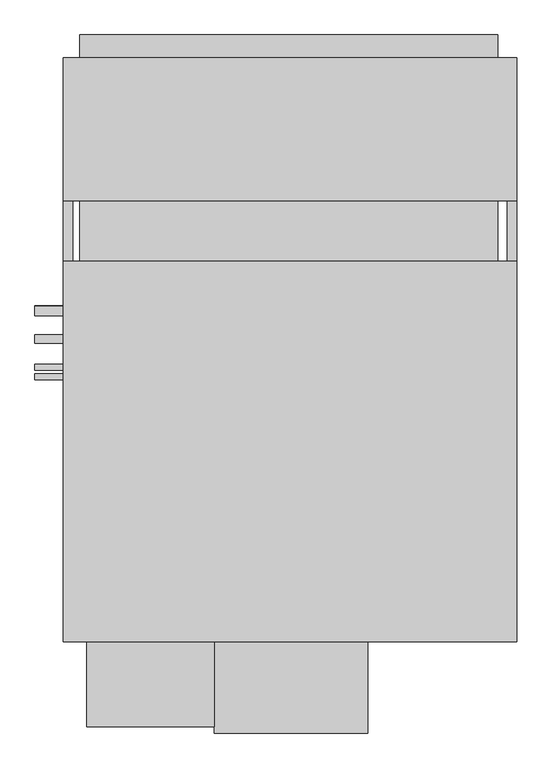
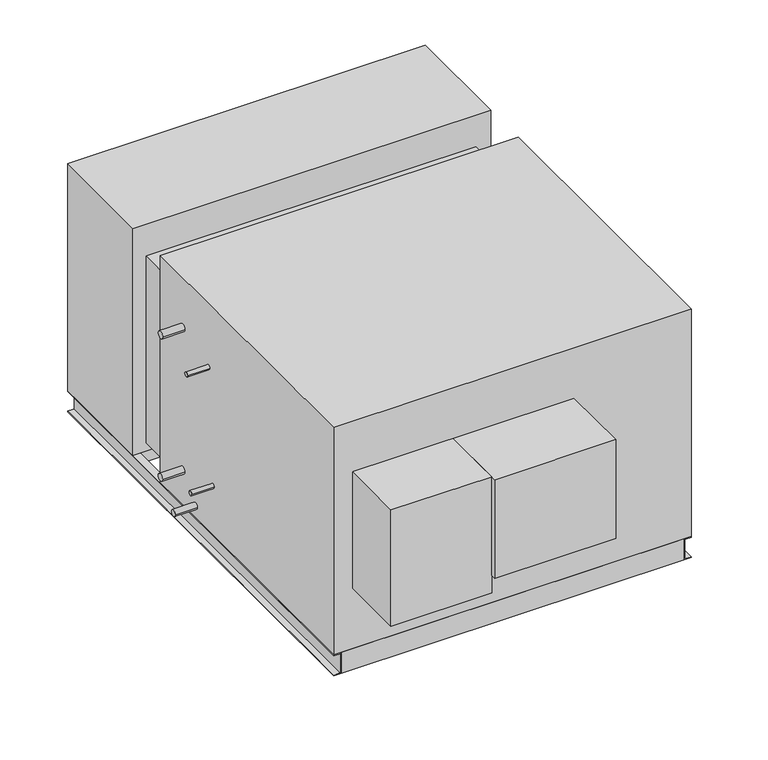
"""IFC4 building model written with IfcOpenShell, lengths in millimetres: proxy geometry, Horizontal_Direct_Drive_Blower_Coil_Unit_-_42DHA_-_CARRIER_-_4-Pipe_NFilterR_W-MixingBox_LH_2022 : Size 30 - 460v/60Hz/3Ph - 6/2 Coil."""

from ifc_helpers import new_model, si_unit, point, frame, frame_2d, origin, place, context, project, spatial, polyline, circle_curve, trimmed, segment, composite_curve, outline, extrude, source, transform, mapped, element, save


def mechanical_equipment_3ddea443(model_context):
    return source(origin(), model_context, "Body", "SweptSolid", [
        extrude(outline(polyline([(101.6, 937.895), (101.6, 683.895), (-1022.35, 683.895), (-1022.35, 937.895), (101.6, 937.895)])), frame((0.0, 0.0, -880.11), z_axis=(0.0, 0.0, 1.0), x_axis=(1.0, 0.0, 0.0)), (0.0, 0.0, 1.0), 60.96),
        extrude(outline(polyline([(-1022.35, 1100.455), (101.6, 1100.455), (101.6, 1039.495), (-1022.35, 1039.495), (-1022.35, 1100.455)])), frame((0.0, 0.0, -330.2), z_axis=(0.0, 0.0, 1.0), x_axis=(1.0, 0.0, 0.0)), (0.0, 0.0, 1.0), 254.0),
        extrude(outline(polyline([(152.4, 1039.495), (152.4, 654.05), (-1066.8, 654.05), (-1066.8, 1039.495), (152.4, 1039.495)])), frame((0.0, 0.0, -819.15), z_axis=(0.0, 0.0, 1.0), x_axis=(1.0, 0.0, 0.0)), (0.0, 0.0, 1.0), 819.15),
        extrude(outline(polyline([(127.0, -504.825), (127.0, -530.225), (-1041.4, -530.225), (-1041.4, -504.825), (127.0, -504.825)])), frame((0.0, 0.0, -895.35), z_axis=(0.0, 0.0, 1.0), x_axis=(1.0, 0.0, 0.0)), (0.0, 0.0, 1.0), 76.2),
        extrude(outline(polyline([(127.0, 1039.495), (127.0, 1014.095), (-1041.4, 1014.095), (-1041.4, 1039.495), (127.0, 1039.495)])), frame((0.0, 0.0, -895.35), z_axis=(0.0, 0.0, 1.0), x_axis=(1.0, 0.0, 0.0)), (0.0, 0.0, 1.0), 76.2),
        extrude(outline(polyline([(-819.15, -1041.4), (-819.15, -1066.8), (-822.325, -1066.8), (-822.325, -1044.575), (-892.175, -1044.575), (-892.175, -1066.8), (-895.35, -1066.8), (-895.35, -1041.4), (-819.15, -1041.4)])), frame((0.0, -530.225, 0.0), z_axis=(0.0, 1.0, 0.0), x_axis=(0.0, 0.0, 1.0)), (0.0, 0.0, 1.0), 1569.72),
        extrude(outline(polyline([(-819.15, 127.0), (-895.35, 127.0), (-895.35, 152.4), (-892.175, 152.4), (-892.175, 130.175), (-822.325, 130.175), (-822.325, 152.4), (-819.15, 152.4), (-819.15, 127.0)])), frame((0.0, -530.225, 0.0), z_axis=(0.0, 1.0, 0.0), x_axis=(0.0, 0.0, 1.0)), (0.0, 0.0, 1.0), 1569.72),
        extrude(outline(composite_curve([segment(trimmed(circle_curve(frame_2d((358.775, -177.8)), 12.7), [point((371.475, -177.8))], [point((346.075, -177.8))], False, "CARTESIAN"), True, "CONTINUOUS"), segment(trimmed(circle_curve(frame_2d((358.775, -177.8)), 12.7), [point((346.075, -177.8))], [point((371.475, -177.8))], False, "CARTESIAN"), True, "CONTINUOUS")], self_intersect=False)), frame((-1143.0, 0.0, 0.0), z_axis=(1.0, 0.0, 0.0), x_axis=(0.0, 1.0, 0.0)), (0.0, 0.0, 1.0), 76.2),
        extrude(outline(composite_curve([segment(trimmed(circle_curve(frame_2d((359.642288, -692.15)), 12.7), [point((372.342288, -692.15))], [point((346.942288, -692.15))], False, "CARTESIAN"), True, "CONTINUOUS"), segment(trimmed(circle_curve(frame_2d((359.642288, -692.15)), 12.7), [point((346.942288, -692.15))], [point((372.342288, -692.15))], False, "CARTESIAN"), True, "CONTINUOUS")], self_intersect=False)), frame((-1143.0, 0.0, 0.0), z_axis=(1.0, 0.0, 0.0), x_axis=(0.0, 1.0, 0.0)), (0.0, 0.0, 1.0), 76.2),
        extrude(outline(composite_curve([segment(trimmed(circle_curve(frame_2d((283.442288, -774.7)), 11.1125), [point((294.554788, -774.7))], [point((272.329788, -774.7))], False, "CARTESIAN"), True, "CONTINUOUS"), segment(trimmed(circle_curve(frame_2d((283.442288, -774.7)), 11.1125), [point((272.329788, -774.7))], [point((294.554788, -774.7))], False, "CARTESIAN"), True, "CONTINUOUS")], self_intersect=False)), frame((-1143.0, 0.0, 0.0), z_axis=(1.0, 0.0, 0.0), x_axis=(0.0, 1.0, 0.0)), (0.0, 0.0, 1.0), 76.2),
        extrude(outline(composite_curve([segment(trimmed(circle_curve(frame_2d((207.242288, -228.6)), 7.9375), [point((215.179788, -228.6))], [point((199.304788, -228.6))], False, "CARTESIAN"), True, "CONTINUOUS"), segment(trimmed(circle_curve(frame_2d((207.242288, -228.6)), 7.9375), [point((199.304788, -228.6))], [point((215.179788, -228.6))], False, "CARTESIAN"), True, "CONTINUOUS")], self_intersect=False)), frame((-1143.0, 0.0, 0.0), z_axis=(1.0, 0.0, 0.0), x_axis=(0.0, 1.0, 0.0)), (0.0, 0.0, 1.0), 76.2),
        extrude(outline(composite_curve([segment(trimmed(circle_curve(frame_2d((181.842288, -641.6292556)), 7.9375), [point((189.779788, -641.6292556))], [point((173.904788, -641.6292556))], False, "CARTESIAN"), True, "CONTINUOUS"), segment(trimmed(circle_curve(frame_2d((181.842288, -641.6292556)), 7.9375), [point((173.904788, -641.6292556))], [point((189.779788, -641.6292556))], False, "CARTESIAN"), True, "CONTINUOUS")], self_intersect=False)), frame((-1143.0, 0.0, 0.0), z_axis=(1.0, 0.0, 0.0), x_axis=(0.0, 1.0, 0.0)), (0.0, 0.0, 1.0), 76.2),
        extrude(outline(polyline([(152.4, 492.125), (152.4, -530.225), (-1066.8, -530.225), (-1066.8, 492.125), (152.4, 492.125)])), frame((0.0, 0.0, -819.15), z_axis=(0.0, 0.0, 1.0), x_axis=(1.0, 0.0, 0.0)), (0.0, 0.0, 1.0), 819.15),
        extrude(outline(polyline([(-660.4, -758.825), (-1003.3, -758.825), (-1003.3, -530.225), (-660.4, -530.225), (-660.4, -758.825)])), frame((0.0, 0.0, -600.075), z_axis=(0.0, 0.0, 1.0), x_axis=(1.0, 0.0, 0.0)), (0.0, 0.0, 1.0), 419.1),
        extrude(outline(polyline([(-1022.35, 654.05), (101.6, 654.05), (101.6, 492.125), (-1022.35, 492.125), (-1022.35, 654.05)])), frame((0.0, 0.0, -787.4), z_axis=(0.0, 0.0, 1.0), x_axis=(1.0, 0.0, 0.0)), (0.0, 0.0, 1.0), 673.1),
        extrude(outline(polyline([(-247.65, -776.2875), (-660.4, -776.2875), (-660.4, -530.225), (-247.65, -530.225), (-247.65, -776.2875)])), frame((0.0, 0.0, -536.575), z_axis=(0.0, 0.0, 1.0), x_axis=(1.0, 0.0, 0.0)), (0.0, 0.0, 1.0), 355.6),
    ])


if __name__ == "__main__":
    model = new_model("IFC4")
    model_context = context("Model", 3, world=origin())
    ifc_project = project(units=[si_unit("LENGTHUNIT", "METRE", prefix="MILLI")], contexts=[model_context])
    site = spatial("IfcSite", under=ifc_project)
    building = spatial("IfcBuilding", under=site)
    placement = place(None, origin())
    mechanical_equipment_shape = mechanical_equipment_3ddea443(model_context)
    element("IfcBuildingElementProxy", 1, Name="Horizontal_Direct_Drive_Blower_Coil_Unit_-_42DHA_-_CARRIER_-_4-Pipe_NFilterR_W-MixingBox_LH_2022 : Size 30 - 460v/60Hz/3Ph - 6/2 Coil", ObjectType="Horizontal_Direct_Drive_Blower_Coil_Unit_-_42DHA_-_CARRIER_-_4-Pipe_NFilterR_W-MixingBox_LH_2022 : Size 30 - 460v/60Hz/3Ph - 6/2 Coil", at=placement, inside=building, context=model_context, shape_type="MappedRepresentation", body=[
        mapped(mechanical_equipment_shape, transform((0.0, 0.0, 0.0), x_axis=(1.0, 0.0, 0.0), y_axis=(0.0, 1.0, 0.0), z_axis=(0.0, 0.0, 1.0))),
    ])
    save(model, "model.ifc")
